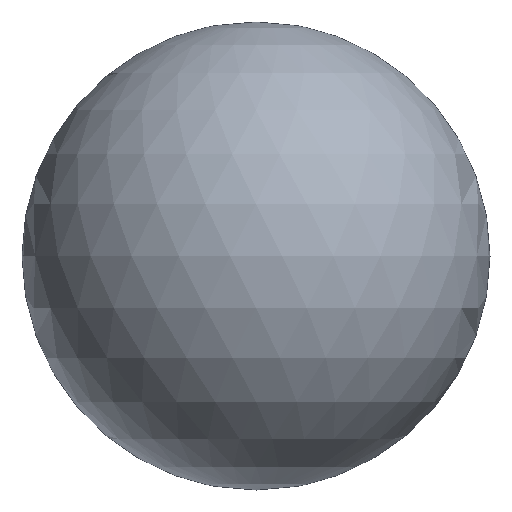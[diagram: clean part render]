
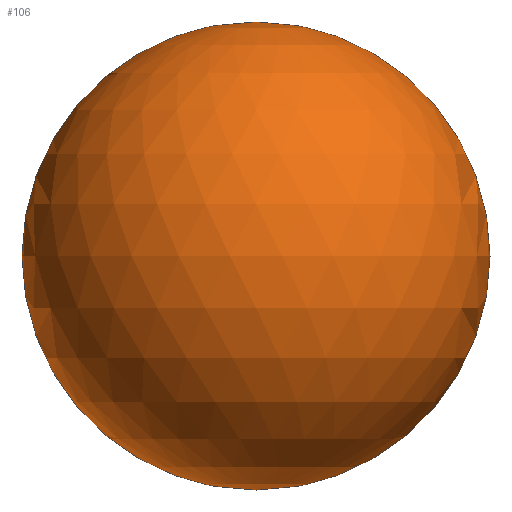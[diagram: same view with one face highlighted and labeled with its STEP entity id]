
A CAD part, front view. The second image highlights one B-rep face of the part: STEP entity #106.
In plain terms, the highlighted spherical face has radius 90 mm.
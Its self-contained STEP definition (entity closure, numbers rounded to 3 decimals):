
#106=ADVANCED_FACE('',(#215),#216,.T.);
#215=FACE_OUTER_BOUND('',#337,.T.);
#216=SPHERICAL_SURFACE('',#338,90.0);
#337=EDGE_LOOP('',(#508,#509));
#338=AXIS2_PLACEMENT_3D('',#510,#511,#512);
#508=ORIENTED_EDGE('',*,*,#709,.T.);
#509=ORIENTED_EDGE('',*,*,#710,.T.);
#510=CARTESIAN_POINT('',(0.0,0.0,20.0));
#511=DIRECTION('',(0.0,0.0,1.0));
#512=DIRECTION('',(1.0,0.0,0.0));
#709=EDGE_CURVE('',#843,#844,#845,.T.);
#710=EDGE_CURVE('',#844,#843,#846,.T.);
#843=VERTEX_POINT('',#1004);
#844=VERTEX_POINT('',#1005);
#845=CIRCLE('',#1006,90.0);
#846=CIRCLE('',#1007,90.0);
#1004=CARTESIAN_POINT('',(0.,0.,-70.0));
#1005=CARTESIAN_POINT('',(0.0,0.0,110.0));
#1006=AXIS2_PLACEMENT_3D('',#1165,#1166,#1167);
#1007=AXIS2_PLACEMENT_3D('',#1168,#1169,#1170);
#1165=CARTESIAN_POINT('',(0.0,0.0,20.0));
#1166=DIRECTION('',(0.,-1.0,0.0));
#1167=DIRECTION('',(0.0,0.0,1.0));
#1168=CARTESIAN_POINT('',(0.0,0.0,20.0));
#1169=DIRECTION('',(0.,-1.0,0.0));
#1170=DIRECTION('',(0.0,0.0,1.0));
